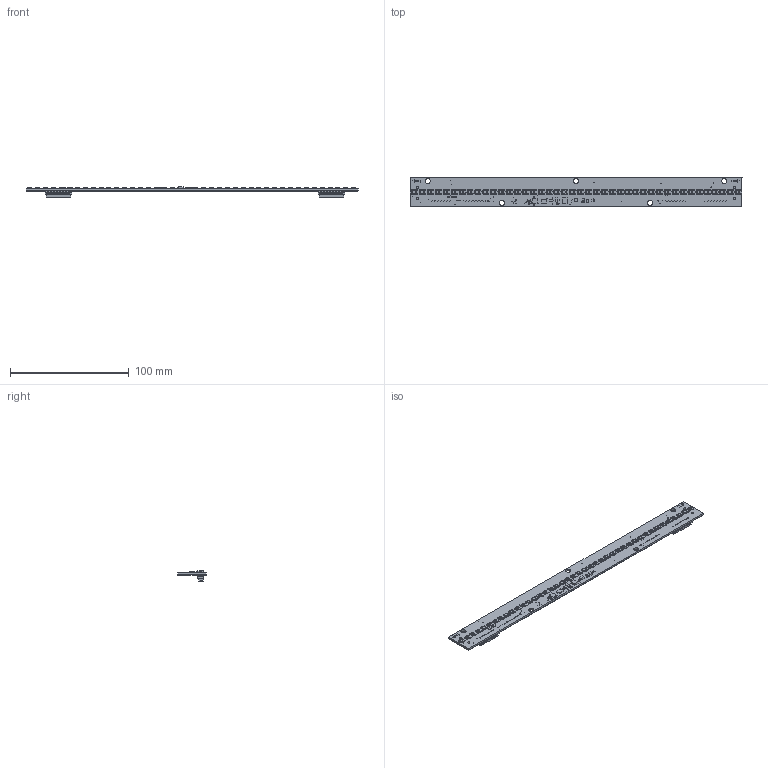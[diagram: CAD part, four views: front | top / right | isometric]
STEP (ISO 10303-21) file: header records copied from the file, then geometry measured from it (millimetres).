
FILE_DESCRIPTION (( 'STEP AP203' ), '1' );
FILE_NAME ('24.700.025.01 B MLTM PCBA 1 FT LUMENETIX 16 PIN BOTTOM CONNECTORS.STEP', '2017-01-09T23:47:15', ( 'Rob' ), ( '' ), 'SwSTEP 2.0', 'SolidWorks 2016', '' );
FILE_SCHEMA (( 'CONFIG_CONTROL_DESIGN' ));
Length unit declared in the file: millimetre
Products named in the file (8): 24.700.025.01 B MLTM PCBA 1 FT LUMENETIX 16 PIN BOTTOM CONNECTORS; 22.700.025.01 1 MLTM PCB 1 FT LUMENETIX; lumileds 3535L; TEST PADS; DIRECTION ARROW; 462.038 16 PIN CONNECTOR 8-188275-6; 22_700_025_01_reva emn 11.2.16; 67.700.002.01 A LTM2 INSULATOR PAD 1FT LX
Assembly tree (50 placements, depth 2):
  24.700.025.01 B MLTM PCBA 1 FT LUMENETIX 16 PIN BOTTOM CONNECTORS
    22.700.025.01 1 MLTM PCB 1 FT LUMENETIX
    lumileds 3535L  x42
    TEST PADS
    DIRECTION ARROW  x2
    462.038 16 PIN CONNECTOR 8-188275-6  x2
    22_700_025_01_reva emn 11.2.16
    67.700.002.01 A LTM2 INSULATOR PAD 1FT LX
Bounding box: 280 x 24 x 8.6 mm (x, y, z)
Volume: 23822.6 mm3; surface area: 46844.3 mm2
Topology: 245 solids, 245 shells, 4060 faces, 10706 edges, 7136 vertices
Faces by surface type: plane 2603, cylinder 1457
Entity records: 78219 total; most frequent: DIRECTION 13427, CARTESIAN_POINT 12957, ORIENTED_EDGE 12746, EDGE_CURVE 6373, AXIS2_PLACEMENT_3D 4718, VERTEX_POINT 4248, VECTOR 3991, LINE 3991
